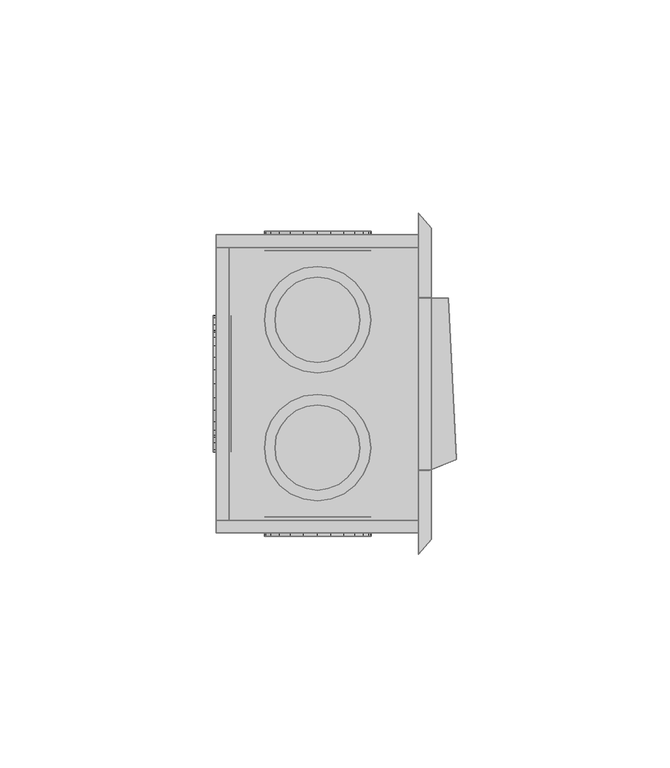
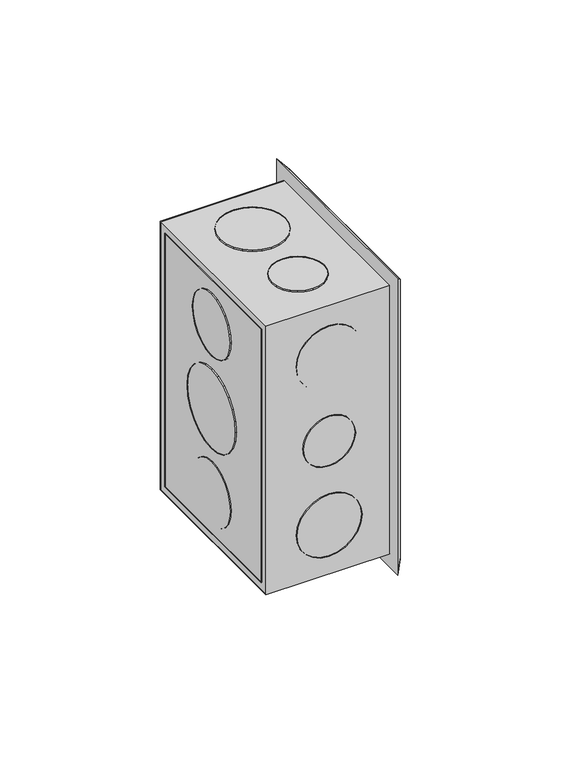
"""IFC4 building model written with IfcOpenShell, lengths in millimetres: proxy geometry,  210619 :  210619."""

from ifc_helpers import new_model, si_unit, origin, place, context, project, spatial, triangles, source, transform, mapped, element, save


def generic_models_47a687d9(model_context):
    return source(origin(), model_context, "Body", "Tessellation", [
        triangles([(2823.4000465, 27363.1995483, 1254.3000378), (2823.4000465, 27360.1997314, 1148.7000154), (2823.4000465, 27363.1995483, 1145.6999805), (2823.4000465, 27360.1997314, 1251.2999302), (2823.4000465, 27293.1991699, 1254.3000378), (2823.4000465, 27296.1989868, 1251.2999302), (2823.4000465, 27293.1991699, 1145.6999805), (2823.4000465, 27296.1989868, 1148.7000154), (2775.9000389, 27360.1997314, 1251.2999302), (2775.9000389, 27360.1997314, 1148.7000154), (2775.9000389, 27293.1991699, 1254.3000378), (2775.9000389, 27293.1991699, 1145.6999805), (2775.9000389, 27296.1989868, 1251.2999302), (2775.9000389, 27363.1995483, 1145.6999805), (2775.9000389, 27296.1989868, 1148.7000154), (2775.9000389, 27363.1995483, 1254.3000378), (2778.8998558, 27360.1997314, 1251.2999302), (2778.8998558, 27296.1989868, 1148.7000154), (2778.8998558, 27360.1997314, 1148.7000154), (2778.8998558, 27296.1989868, 1251.2999302), (2779.400116, 27342.1008362, 1191.9999887), (2779.400116, 27336.1988708, 1186.0999855), (2779.400116, 27339.5009949, 1188.6999722), (2779.400116, 27343.7007385, 1195.8999687), (2779.400116, 27332.3991028, 1184.5000105), (2779.400116, 27344.200708, 1200.0000092), (2779.400116, 27328.1993591, 1183.9999683), (2779.400116, 27343.7007385, 1204.0999769), (2779.400116, 27324.0996094, 1184.5000105), (2779.400116, 27342.1008362, 1208.0000296), (2779.400116, 27320.1998474, 1186.0999855), (2779.400116, 27339.5009949, 1211.2999735), (2779.400116, 27316.9000488, 1188.6999722), (2779.400116, 27336.1988708, 1213.9000328), (2779.400116, 27314.4002014, 1191.9999887), (2779.400116, 27332.3991028, 1215.5000078), (2779.400116, 27312.8002991, 1195.8999687), (2779.400116, 27328.1993591, 1215.9999773), (2779.400116, 27312.2003357, 1200.0000092), (2779.400116, 27324.0996094, 1215.5000078), (2779.400116, 27312.8002991, 1204.0999769), (2779.400116, 27320.1998474, 1213.9000328), (2779.400116, 27314.4002014, 1208.0000296), (2779.400116, 27316.9000488, 1211.2999735), (2775.2000816, 27324.0996094, 1184.5000105), (2775.2000816, 27328.1993591, 1183.9999683), (2775.2000816, 27332.3991028, 1184.5000105), (2775.2000816, 27336.1988708, 1186.0999855), (2775.2000816, 27339.5009949, 1188.6999722), (2775.2000816, 27342.1008362, 1191.9999887), (2775.2000816, 27343.7007385, 1195.8999687), (2775.2000816, 27344.200708, 1200.0000092), (2775.2000816, 27343.7007385, 1204.0999769), (2775.2000816, 27342.1008362, 1208.0000296), (2775.2000816, 27339.5009949, 1211.2999735), (2775.2000816, 27336.1988708, 1213.9000328), (2775.2000816, 27332.3991028, 1215.5000078), (2775.2000816, 27328.1993591, 1215.9999773), (2775.2000816, 27324.0996094, 1215.5000078), (2775.2000816, 27320.1998474, 1213.9000328), (2775.2000816, 27316.9000488, 1211.2999735), (2775.2000816, 27314.4002014, 1208.0000296), (2775.2000816, 27312.8002991, 1204.0999769), (2775.2000816, 27312.2003357, 1200.0000092), (2775.2000816, 27312.8002991, 1195.8999687), (2775.2000816, 27314.4002014, 1191.9999887), (2775.2000816, 27316.9000488, 1188.6999722), (2775.2000816, 27320.1998474, 1186.0999855), (2779.400116, 27339.1010193, 1227.8000565), (2779.400116, 27334.4989746, 1223.2000465), (2779.400116, 27337.1011414, 1225.2000698), (2779.400116, 27340.300946, 1230.8000187), (2779.400116, 27331.4991577, 1221.8999805), (2779.400116, 27340.7009216, 1233.9999687), (2779.400116, 27328.1993591, 1221.500005), (2779.400116, 27340.300946, 1237.2000641), (2779.400116, 27324.9995544, 1221.8999805), (2779.400116, 27339.1010193, 1240.3000202), (2779.400116, 27321.9997375, 1223.2000465), (2779.400116, 27337.1011414, 1242.800013), (2779.400116, 27319.3998962, 1225.2000698), (2779.400116, 27317.4000183, 1227.8000565), (2779.400116, 27334.4989746, 1244.8000362), (2779.400116, 27331.4991577, 1246.0999569), (2779.400116, 27316.2000916, 1230.8000187), (2779.400116, 27328.1993591, 1246.4999325), (2779.400116, 27315.7001221, 1233.9999687), (2779.400116, 27324.9995544, 1246.0999569), (2779.400116, 27316.2000916, 1237.2000641), (2779.400116, 27317.4000183, 1240.3000202), (2779.400116, 27321.9997375, 1244.8000362), (2779.400116, 27319.3998962, 1242.800013), (2775.2000816, 27316.2000916, 1230.8000187), (2775.2000816, 27317.4000183, 1227.8000565), (2775.2000816, 27319.3998962, 1225.2000698), (2775.2000816, 27321.9997375, 1223.2000465), (2775.2000816, 27324.9995544, 1221.8999805), (2775.2000816, 27328.1993591, 1221.500005), (2775.2000816, 27331.4991577, 1221.8999805), (2775.2000816, 27334.4989746, 1223.2000465), (2775.2000816, 27337.1011414, 1225.2000698), (2775.2000816, 27339.1010193, 1227.8000565), (2775.2000816, 27340.300946, 1230.8000187), (2775.2000816, 27340.7009216, 1233.9999687), (2775.2000816, 27340.300946, 1237.2000641), (2775.2000816, 27339.1010193, 1240.3000202), (2775.2000816, 27337.1011414, 1242.800013), (2775.2000816, 27334.4989746, 1244.8000362), (2775.2000816, 27331.4991577, 1246.0999569), (2775.2000816, 27328.1993591, 1246.4999325), (2775.2000816, 27324.9995544, 1246.0999569), (2775.2000816, 27321.9997375, 1244.8000362), (2775.2000816, 27319.3998962, 1242.800013), (2775.2000816, 27317.4000183, 1240.3000202), (2775.2000816, 27316.2000916, 1237.2000641), (2775.2000816, 27315.7001221, 1233.9999687), (2775.2000816, 27334.4989746, 1155.1999821), (2775.2000816, 27339.1010193, 1159.6999981), (2775.2000816, 27337.1011414, 1157.2000053), (2775.2000816, 27331.4991577, 1153.8999887), (2775.2000816, 27340.300946, 1162.8000269), (2775.2000816, 27328.1993591, 1153.5000132), (2775.2000816, 27340.7009216, 1165.9999769), (2775.2000816, 27324.9995544, 1153.8999887), (2775.2000816, 27340.300946, 1169.1999996), (2775.2000816, 27321.9997375, 1155.1999821), (2775.2000816, 27339.1010193, 1172.2000345), (2775.2000816, 27319.3998962, 1157.2000053), (2775.2000816, 27337.1011414, 1174.8000212), (2775.2000816, 27317.4000183, 1159.6999981), (2775.2000816, 27334.4989746, 1176.7999718), (2775.2000816, 27316.2000916, 1162.8000269), (2775.2000816, 27331.4991577, 1178.0999651), (2775.2000816, 27328.1993591, 1178.5000134), (2775.2000816, 27315.7001221, 1165.9999769), (2775.2000816, 27316.2000916, 1169.1999996), (2775.2000816, 27324.9995544, 1178.0999651), (2775.2000816, 27317.4000183, 1172.2000345), (2775.2000816, 27321.9997375, 1176.7999718), (2775.2000816, 27319.3998962, 1174.8000212), (2779.400116, 27331.4991577, 1178.0999651), (2779.400116, 27328.1993591, 1178.5000134), (2779.400116, 27334.4989746, 1176.7999718), (2779.400116, 27337.1011414, 1174.8000212), (2779.400116, 27339.1010193, 1172.2000345), (2779.400116, 27340.300946, 1169.1999996), (2779.400116, 27340.7009216, 1165.9999769), (2779.400116, 27340.300946, 1162.8000269), (2779.400116, 27339.1010193, 1159.6999981), (2779.400116, 27337.1011414, 1157.2000053), (2779.400116, 27334.4989746, 1155.1999821), (2779.400116, 27331.4991577, 1153.8999887), (2779.400116, 27328.1993591, 1153.5000132), (2779.400116, 27324.9995544, 1153.8999887), (2779.400116, 27321.9997375, 1155.1999821), (2779.400116, 27319.3998962, 1157.2000053), (2779.400116, 27317.4000183, 1159.6999981), (2779.400116, 27316.2000916, 1162.8000269), (2779.400116, 27315.7001221, 1165.9999769), (2779.400116, 27316.2000916, 1169.1999996), (2779.400116, 27317.4000183, 1172.2000345), (2779.400116, 27319.3998962, 1174.8000212), (2779.400116, 27321.9997375, 1176.7999718), (2779.400116, 27324.9995544, 1178.0999651), (2794.7000542, 27359.3997803, 1191.3000315), (2790.9999893, 27359.3997803, 1195.0000237), (2792.5998917, 27359.3997803, 1192.9000065), (2790.0000504, 27359.3997803, 1197.4000225), (2797.0999077, 27359.3997803, 1190.3000198), (2789.7000687, 27359.3997803, 1200.0000092), (2799.7000397, 27359.3997803, 1189.9999655), (2802.1998871, 27359.3997803, 1190.3000198), (2790.0000504, 27359.3997803, 1202.5999958), (2790.9999893, 27359.3997803, 1204.9999947), (2804.7000252, 27359.3997803, 1191.3000315), (2792.5998917, 27359.3997803, 1207.1000118), (2806.6999031, 27359.3997803, 1192.9000065), (2808.3000961, 27359.3997803, 1195.0000237), (2794.7000542, 27359.3997803, 1208.6999868), (2809.3000351, 27359.3997803, 1197.4000225), (2797.0999077, 27359.3997803, 1209.6999985), (2809.7000107, 27359.3997803, 1200.0000092), (2799.7000397, 27359.3997803, 1209.9999802), (2809.3000351, 27359.3997803, 1202.5999958), (2802.1998871, 27359.3997803, 1209.6999985), (2804.7000252, 27359.3997803, 1208.6999868), (2808.3000961, 27359.3997803, 1204.9999947), (2806.6999031, 27359.3997803, 1207.1000118), (2799.7000397, 27363.9994995, 1189.9999655), (2797.0999077, 27363.9994995, 1190.3000198), (2802.1998871, 27363.9994995, 1190.3000198), (2804.7000252, 27363.9994995, 1191.3000315), (2806.6999031, 27363.9994995, 1192.9000065), (2808.3000961, 27363.9994995, 1195.0000237), (2809.3000351, 27363.9994995, 1197.4000225), (2809.7000107, 27363.9994995, 1200.0000092), (2809.3000351, 27363.9994995, 1202.5999958), (2808.3000961, 27363.9994995, 1204.9999947), (2806.6999031, 27363.9994995, 1207.1000118), (2804.7000252, 27363.9994995, 1208.6999868), (2802.1998871, 27363.9994995, 1209.6999985), (2799.7000397, 27363.9994995, 1209.9999802), (2797.0999077, 27363.9994995, 1209.6999985), (2794.7000542, 27363.9994995, 1208.6999868), (2792.5998917, 27363.9994995, 1207.1000118), (2790.9999893, 27363.9994995, 1204.9999947), (2790.0000504, 27363.9994995, 1202.5999958), (2789.7000687, 27363.9994995, 1200.0000092), (2790.0000504, 27363.9994995, 1197.4000225), (2790.9999893, 27363.9994995, 1195.0000237), (2792.5998917, 27363.9994995, 1192.9000065), (2794.7000542, 27363.9994995, 1191.3000315), (2793.4001335, 27359.3997803, 1223.2000465), (2788.8001236, 27359.3997803, 1227.8000565), (2790.8000015, 27359.3997803, 1225.2000698), (2796.3999504, 27359.3997803, 1221.8999805), (2787.5999062, 27359.3997803, 1230.8000187), (2787.1999306, 27359.3997803, 1233.9999687), (2799.7000397, 27359.3997803, 1221.500005), (2802.900135, 27359.3997803, 1221.8999805), (2787.5999062, 27359.3997803, 1237.2000641), (2788.8001236, 27359.3997803, 1240.3000202), (2805.8999519, 27359.3997803, 1223.2000465), (2808.5000839, 27359.3997803, 1225.2000698), (2790.8000015, 27359.3997803, 1242.800013), (2810.4999619, 27359.3997803, 1227.8000565), (2793.4001335, 27359.3997803, 1244.8000362), (2811.6998886, 27359.3997803, 1230.8000187), (2796.3999504, 27359.3997803, 1246.0999569), (2812.1998581, 27359.3997803, 1233.9999687), (2799.7000397, 27359.3997803, 1246.4999325), (2811.6998886, 27359.3997803, 1237.2000641), (2802.900135, 27359.3997803, 1246.0999569), (2810.4999619, 27359.3997803, 1240.3000202), (2805.8999519, 27359.3997803, 1244.8000362), (2808.5000839, 27359.3997803, 1242.800013), (2799.7000397, 27363.9994995, 1221.500005), (2796.3999504, 27363.9994995, 1221.8999805), (2802.900135, 27363.9994995, 1221.8999805), (2805.8999519, 27363.9994995, 1223.2000465), (2808.5000839, 27363.9994995, 1225.2000698), (2810.4999619, 27363.9994995, 1227.8000565), (2811.6998886, 27363.9994995, 1230.8000187), (2812.1998581, 27363.9994995, 1233.9999687), (2811.6998886, 27363.9994995, 1237.2000641), (2810.4999619, 27363.9994995, 1240.3000202), (2808.5000839, 27363.9994995, 1242.800013), (2805.8999519, 27363.9994995, 1244.8000362), (2802.900135, 27363.9994995, 1246.0999569), (2799.7000397, 27363.9994995, 1246.4999325), (2796.3999504, 27363.9994995, 1246.0999569), (2793.4001335, 27363.9994995, 1244.8000362), (2790.8000015, 27363.9994995, 1242.800013), (2788.8001236, 27363.9994995, 1240.3000202), (2787.5999062, 27363.9994995, 1237.2000641), (2787.1999306, 27363.9994995, 1233.9999687), (2787.5999062, 27363.9994995, 1230.8000187), (2788.8001236, 27363.9994995, 1227.8000565), (2790.8000015, 27363.9994995, 1225.2000698), (2793.4001335, 27363.9994995, 1223.2000465), (2788.8001236, 27363.9994995, 1159.6999981), (2793.4001335, 27363.9994995, 1155.1999821), (2790.8000015, 27363.9994995, 1157.2000053), (2787.5999062, 27363.9994995, 1162.8000269), (2796.3999504, 27363.9994995, 1153.8999887), (2787.1999306, 27363.9994995, 1165.9999769), (2799.7000397, 27363.9994995, 1153.5000132), (2787.5999062, 27363.9994995, 1169.1999996), (2802.900135, 27363.9994995, 1153.8999887), (2788.8001236, 27363.9994995, 1172.2000345), (2805.8999519, 27363.9994995, 1155.1999821), (2790.8000015, 27363.9994995, 1174.8000212), (2808.5000839, 27363.9994995, 1157.2000053), (2793.4001335, 27363.9994995, 1176.7999718), (2810.4999619, 27363.9994995, 1159.6999981), (2796.3999504, 27363.9994995, 1178.0999651), (2811.6998886, 27363.9994995, 1162.8000269), (2799.7000397, 27363.9994995, 1178.5000134), (2812.1998581, 27363.9994995, 1165.9999769), (2802.900135, 27363.9994995, 1178.0999651), (2811.6998886, 27363.9994995, 1169.1999996), (2805.8999519, 27363.9994995, 1176.7999718), (2810.4999619, 27363.9994995, 1172.2000345), (2808.5000839, 27363.9994995, 1174.8000212), (2796.3999504, 27359.3997803, 1178.0999651), (2799.7000397, 27359.3997803, 1178.5000134), (2802.900135, 27359.3997803, 1178.0999651), (2805.8999519, 27359.3997803, 1176.7999718), (2808.5000839, 27359.3997803, 1174.8000212), (2810.4999619, 27359.3997803, 1172.2000345), (2811.6998886, 27359.3997803, 1169.1999996), (2812.1998581, 27359.3997803, 1165.9999769), (2811.6998886, 27359.3997803, 1162.8000269), (2810.4999619, 27359.3997803, 1159.6999981), (2808.5000839, 27359.3997803, 1157.2000053), (2805.8999519, 27359.3997803, 1155.1999821), (2802.900135, 27359.3997803, 1153.8999887), (2799.7000397, 27359.3997803, 1153.5000132), (2796.3999504, 27359.3997803, 1153.8999887), (2793.4001335, 27359.3997803, 1155.1999821), (2790.8000015, 27359.3997803, 1157.2000053), (2788.8001236, 27359.3997803, 1159.6999981), (2787.5999062, 27359.3997803, 1162.8000269), (2787.1999306, 27359.3997803, 1165.9999769), (2787.5999062, 27359.3997803, 1169.1999996), (2788.8001236, 27359.3997803, 1172.2000345), (2790.8000015, 27359.3997803, 1174.8000212), (2793.4001335, 27359.3997803, 1176.7999718), (2790.9999893, 27296.998938, 1195.0000237), (2794.7000542, 27296.998938, 1191.3000315), (2792.5998917, 27296.998938, 1192.9000065), (2790.0000504, 27296.998938, 1197.4000225), (2797.0999077, 27296.998938, 1190.3000198), (2789.7000687, 27296.998938, 1200.0000092), (2799.7000397, 27296.998938, 1189.9999655), (2790.0000504, 27296.998938, 1202.5999958), (2802.1998871, 27296.998938, 1190.3000198), (2790.9999893, 27296.998938, 1204.9999947), (2804.7000252, 27296.998938, 1191.3000315), (2792.5998917, 27296.998938, 1207.1000118), (2806.6999031, 27296.998938, 1192.9000065), (2794.7000542, 27296.998938, 1208.6999868), (2808.3000961, 27296.998938, 1195.0000237), (2797.0999077, 27296.998938, 1209.6999985), (2809.3000351, 27296.998938, 1197.4000225), (2809.7000107, 27296.998938, 1200.0000092), (2799.7000397, 27296.998938, 1209.9999802), (2802.1998871, 27296.998938, 1209.6999985), (2809.3000351, 27296.998938, 1202.5999958), (2804.7000252, 27296.998938, 1208.6999868), (2808.3000961, 27296.998938, 1204.9999947), (2806.6999031, 27296.998938, 1207.1000118), (2797.0999077, 27292.3992188, 1209.6999985), (2799.7000397, 27292.3992188, 1209.9999802), (2802.1998871, 27292.3992188, 1209.6999985), (2804.7000252, 27292.3992188, 1208.6999868), (2806.6999031, 27292.3992188, 1207.1000118), (2808.3000961, 27292.3992188, 1204.9999947), (2809.3000351, 27292.3992188, 1202.5999958), (2809.7000107, 27292.3992188, 1200.0000092), (2809.3000351, 27292.3992188, 1197.4000225), (2808.3000961, 27292.3992188, 1195.0000237), (2806.6999031, 27292.3992188, 1192.9000065), (2804.7000252, 27292.3992188, 1191.3000315), (2802.1998871, 27292.3992188, 1190.3000198), (2799.7000397, 27292.3992188, 1189.9999655), (2797.0999077, 27292.3992188, 1190.3000198), (2794.7000542, 27292.3992188, 1191.3000315), (2792.5998917, 27292.3992188, 1192.9000065), (2790.9999893, 27292.3992188, 1195.0000237), (2790.0000504, 27292.3992188, 1197.4000225), (2789.7000687, 27292.3992188, 1200.0000092), (2790.0000504, 27292.3992188, 1202.5999958), (2790.9999893, 27292.3992188, 1204.9999947), (2792.5998917, 27292.3992188, 1207.1000118), (2794.7000542, 27292.3992188, 1208.6999868), (2788.8001236, 27296.998938, 1159.6999981), (2793.4001335, 27296.998938, 1155.1999821), (2790.8000015, 27296.998938, 1157.2000053), (2787.5999062, 27296.998938, 1162.8000269), (2796.3999504, 27296.998938, 1153.8999887), (2787.1999306, 27296.998938, 1165.9999769), (2799.7000397, 27296.998938, 1153.5000132), (2787.5999062, 27296.998938, 1169.1999996), (2802.900135, 27296.998938, 1153.8999887), (2788.8001236, 27296.998938, 1172.2000345), (2805.8999519, 27296.998938, 1155.1999821), (2790.8000015, 27296.998938, 1174.8000212), (2808.5000839, 27296.998938, 1157.2000053), (2793.4001335, 27296.998938, 1176.7999718), (2810.4999619, 27296.998938, 1159.6999981), (2796.3999504, 27296.998938, 1178.0999651), (2811.6998886, 27296.998938, 1162.8000269), (2799.7000397, 27296.998938, 1178.5000134), (2812.1998581, 27296.998938, 1165.9999769), (2802.900135, 27296.998938, 1178.0999651), (2811.6998886, 27296.998938, 1169.1999996), (2805.8999519, 27296.998938, 1176.7999718), (2810.4999619, 27296.998938, 1172.2000345), (2808.5000839, 27296.998938, 1174.8000212), (2796.3999504, 27292.3992188, 1178.0999651), (2799.7000397, 27292.3992188, 1178.5000134), (2802.900135, 27292.3992188, 1178.0999651), (2805.8999519, 27292.3992188, 1176.7999718), (2808.5000839, 27292.3992188, 1174.8000212), (2810.4999619, 27292.3992188, 1172.2000345), (2811.6998886, 27292.3992188, 1169.1999996), (2812.1998581, 27292.3992188, 1165.9999769), (2811.6998886, 27292.3992188, 1162.8000269), (2810.4999619, 27292.3992188, 1159.6999981), (2808.5000839, 27292.3992188, 1157.2000053), (2805.8999519, 27292.3992188, 1155.1999821), (2802.900135, 27292.3992188, 1153.8999887), (2799.7000397, 27292.3992188, 1153.5000132), (2796.3999504, 27292.3992188, 1153.8999887), (2793.4001335, 27292.3992188, 1155.1999821), (2790.8000015, 27292.3992188, 1157.2000053), (2788.8001236, 27292.3992188, 1159.6999981), (2787.5999062, 27292.3992188, 1162.8000269), (2787.1999306, 27292.3992188, 1165.9999769), (2787.5999062, 27292.3992188, 1169.1999996), (2788.8001236, 27292.3992188, 1172.2000345), (2790.8000015, 27292.3992188, 1174.8000212), (2793.4001335, 27292.3992188, 1176.7999718), (2793.4001335, 27292.3992188, 1223.2000465), (2788.8001236, 27292.3992188, 1227.8000565), (2790.8000015, 27292.3992188, 1225.2000698), (2796.3999504, 27292.3992188, 1221.8999805), (2787.5999062, 27292.3992188, 1230.8000187), (2787.1999306, 27292.3992188, 1233.9999687), (2799.7000397, 27292.3992188, 1221.500005), (2802.900135, 27292.3992188, 1221.8999805), (2787.5999062, 27292.3992188, 1237.2000641), (2788.8001236, 27292.3992188, 1240.3000202), (2805.8999519, 27292.3992188, 1223.2000465), (2808.5000839, 27292.3992188, 1225.2000698), (2790.8000015, 27292.3992188, 1242.800013), (2810.4999619, 27292.3992188, 1227.8000565), (2793.4001335, 27292.3992188, 1244.8000362), (2811.6998886, 27292.3992188, 1230.8000187), (2796.3999504, 27292.3992188, 1246.0999569), (2812.1998581, 27292.3992188, 1233.9999687), (2799.7000397, 27292.3992188, 1246.4999325), (2811.6998886, 27292.3992188, 1237.2000641), (2802.900135, 27292.3992188, 1246.0999569), (2810.4999619, 27292.3992188, 1240.3000202), (2805.8999519, 27292.3992188, 1244.8000362), (2808.5000839, 27292.3992188, 1242.800013), (2799.7000397, 27296.998938, 1221.500005), (2796.3999504, 27296.998938, 1221.8999805), (2802.900135, 27296.998938, 1221.8999805), (2805.8999519, 27296.998938, 1223.2000465), (2808.5000839, 27296.998938, 1225.2000698), (2810.4999619, 27296.998938, 1227.8000565), (2811.6998886, 27296.998938, 1230.8000187), (2812.1998581, 27296.998938, 1233.9999687), (2811.6998886, 27296.998938, 1237.2000641), (2810.4999619, 27296.998938, 1240.3000202), (2808.5000839, 27296.998938, 1242.800013), (2805.8999519, 27296.998938, 1244.8000362), (2802.900135, 27296.998938, 1246.0999569), (2799.7000397, 27296.998938, 1246.4999325), (2796.3999504, 27296.998938, 1246.0999569), (2793.4001335, 27296.998938, 1244.8000362), (2790.8000015, 27296.998938, 1242.800013), (2788.8001236, 27296.998938, 1240.3000202), (2787.5999062, 27296.998938, 1237.2000641), (2787.1999306, 27296.998938, 1233.9999687), (2787.5999062, 27296.998938, 1230.8000187), (2788.8001236, 27296.998938, 1227.8000565), (2790.8000015, 27296.998938, 1225.2000698), (2793.4001335, 27296.998938, 1223.2000465), (2793.4001335, 27354.1001038, 1250.9999485), (2788.8001236, 27349.5003845, 1250.9999485), (2790.8000015, 27352.1002258, 1250.9999485), (2796.3999504, 27355.3000305, 1250.9999485), (2787.5999062, 27346.5005676, 1250.9999485), (2787.1999306, 27343.200769, 1250.9999485), (2799.7000397, 27355.7000061, 1250.9999485), (2802.900135, 27355.3000305, 1250.9999485), (2787.5999062, 27340.0009644, 1250.9999485), (2788.8001236, 27337.0011475, 1250.9999485), (2805.8999519, 27354.1001038, 1250.9999485), (2808.5000839, 27352.1002258, 1250.9999485), (2790.8000015, 27334.3989807, 1250.9999485), (2793.4001335, 27332.3991028, 1250.9999485), (2810.4999619, 27349.5003845, 1250.9999485), (2811.6998886, 27346.5005676, 1250.9999485), (2796.3999504, 27331.199176, 1250.9999485), (2812.1998581, 27343.200769, 1250.9999485), (2799.7000397, 27330.6992065, 1250.9999485), (2811.6998886, 27340.0009644, 1250.9999485), (2802.900135, 27331.199176, 1250.9999485), (2805.8999519, 27332.3991028, 1250.9999485), (2810.4999619, 27337.0011475, 1250.9999485), (2808.5000839, 27334.3989807, 1250.9999485), (2787.1999306, 27343.200769, 1255.1999828), (2787.5999062, 27340.0009644, 1255.1999828), (2787.5999062, 27346.5005676, 1255.1999828), (2788.8001236, 27349.5003845, 1255.1999828), (2790.8000015, 27352.1002258, 1255.1999828), (2793.4001335, 27354.1001038, 1255.1999828), (2796.3999504, 27355.3000305, 1255.1999828), (2799.7000397, 27355.7000061, 1255.1999828), (2802.900135, 27355.3000305, 1255.1999828), (2805.8999519, 27354.1001038, 1255.1999828), (2808.5000839, 27352.1002258, 1255.1999828), (2810.4999619, 27349.5003845, 1255.1999828), (2811.6998886, 27346.5005676, 1255.1999828), (2812.1998581, 27343.200769, 1255.1999828), (2811.6998886, 27340.0009644, 1255.1999828), (2810.4999619, 27337.0011475, 1255.1999828), (2808.5000839, 27334.3989807, 1255.1999828), (2805.8999519, 27332.3991028, 1255.1999828), (2802.900135, 27331.199176, 1255.1999828), (2799.7000397, 27330.6992065, 1255.1999828), (2796.3999504, 27331.199176, 1255.1999828), (2793.4001335, 27332.3991028, 1255.1999828), (2790.8000015, 27334.3989807, 1255.1999828), (2788.8001236, 27337.0011475, 1255.1999828), (2794.7000542, 27321.8997437, 1250.9999485), (2790.9999893, 27318.1999695, 1250.9999485), (2792.5998917, 27320.2998413, 1250.9999485), (2790.0000504, 27315.800116, 1250.9999485), (2797.0999077, 27322.8996826, 1250.9999485), (2789.7000687, 27313.2002747, 1250.9999485), (2799.7000397, 27323.1996643, 1250.9999485), (2802.1998871, 27322.8996826, 1250.9999485), (2790.0000504, 27310.6004333, 1250.9999485), (2790.9999893, 27308.2005798, 1250.9999485), (2804.7000252, 27321.8997437, 1250.9999485), (2792.5998917, 27306.2007019, 1250.9999485), (2806.6999031, 27320.2998413, 1250.9999485), (2808.3000961, 27318.1999695, 1250.9999485), (2794.7000542, 27304.6007996, 1250.9999485), (2797.0999077, 27303.6008606, 1250.9999485), (2809.3000351, 27315.800116, 1250.9999485), (2809.7000107, 27313.2002747, 1250.9999485), (2799.7000397, 27303.200885, 1250.9999485), (2809.3000351, 27310.6004333, 1250.9999485), (2802.1998871, 27303.6008606, 1250.9999485), (2808.3000961, 27308.2005798, 1250.9999485), (2804.7000252, 27304.6007996, 1250.9999485), (2806.6999031, 27306.2007019, 1250.9999485), (2790.0000504, 27310.6004333, 1255.1999828), (2790.9999893, 27308.2005798, 1255.1999828), (2789.7000687, 27313.2002747, 1255.1999828), (2790.0000504, 27315.800116, 1255.1999828), (2790.9999893, 27318.1999695, 1255.1999828), (2792.5998917, 27320.2998413, 1255.1999828), (2794.7000542, 27321.8997437, 1255.1999828), (2797.0999077, 27322.8996826, 1255.1999828), (2799.7000397, 27323.1996643, 1255.1999828), (2802.1998871, 27322.8996826, 1255.1999828), (2804.7000252, 27321.8997437, 1255.1999828), (2806.6999031, 27320.2998413, 1255.1999828), (2808.3000961, 27318.1999695, 1255.1999828), (2809.3000351, 27315.800116, 1255.1999828), (2809.7000107, 27313.2002747, 1255.1999828), (2809.3000351, 27310.6004333, 1255.1999828), (2808.3000961, 27308.2005798, 1255.1999828), (2806.6999031, 27306.2007019, 1255.1999828), (2804.7000252, 27304.6007996, 1255.1999828), (2802.1998871, 27303.6008606, 1255.1999828), (2799.7000397, 27303.200885, 1255.1999828), (2797.0999077, 27303.6008606, 1255.1999828), (2794.7000542, 27304.6007996, 1255.1999828), (2792.5998917, 27306.2007019, 1255.1999828), (2794.7000542, 27351.900238, 1144.8000355), (2790.9999893, 27348.2004639, 1144.8000355), (2792.5998917, 27350.3003357, 1144.8000355), (2790.0000504, 27345.8006104, 1144.8000355), (2797.0999077, 27352.900177, 1144.8000355), (2789.7000687, 27343.200769, 1144.8000355), (2799.7000397, 27353.2001587, 1144.8000355), (2802.1998871, 27352.900177, 1144.8000355), (2790.0000504, 27340.6009277, 1144.8000355), (2790.9999893, 27338.2010742, 1144.8000355), (2804.7000252, 27351.900238, 1144.8000355), (2792.5998917, 27336.1988708, 1144.8000355), (2806.6999031, 27350.3003357, 1144.8000355), (2808.3000961, 27348.2004639, 1144.8000355), (2794.7000542, 27334.5989685, 1144.8000355), (2797.0999077, 27333.5990295, 1144.8000355), (2809.3000351, 27345.8006104, 1144.8000355), (2809.7000107, 27343.200769, 1144.8000355), (2799.7000397, 27333.199054, 1144.8000355), (2809.3000351, 27340.6009277, 1144.8000355), (2802.1998871, 27333.5990295, 1144.8000355), (2808.3000961, 27338.2010742, 1144.8000355), (2804.7000252, 27334.5989685, 1144.8000355), (2806.6999031, 27336.1988708, 1144.8000355), (2790.0000504, 27345.8006104, 1149.099991), (2789.7000687, 27343.200769, 1149.099991), (2790.9999893, 27348.2004639, 1149.099991), (2792.5998917, 27350.3003357, 1149.099991), (2794.7000542, 27351.900238, 1149.099991), (2797.0999077, 27352.900177, 1149.099991), (2799.7000397, 27353.2001587, 1149.099991), (2802.1998871, 27352.900177, 1149.099991), (2804.7000252, 27351.900238, 1149.099991), (2806.6999031, 27350.3003357, 1149.099991), (2808.3000961, 27348.2004639, 1149.099991), (2809.3000351, 27345.8006104, 1149.099991), (2809.7000107, 27343.200769, 1149.099991), (2809.3000351, 27340.6009277, 1149.099991), (2808.3000961, 27338.2010742, 1149.099991), (2806.6999031, 27336.1988708, 1149.099991), (2804.7000252, 27334.5989685, 1149.099991), (2802.1998871, 27333.5990295, 1149.099991), (2799.7000397, 27333.199054, 1149.099991), (2797.0999077, 27333.5990295, 1149.099991), (2794.7000542, 27334.5989685, 1149.099991), (2792.5998917, 27336.1988708, 1149.099991), (2790.9999893, 27338.2010742, 1149.099991), (2790.0000504, 27340.6009277, 1149.099991), (2793.4001335, 27324.0996094, 1144.8000355), (2788.8001236, 27319.4998901, 1144.8000355), (2790.8000015, 27322.0997314, 1144.8000355), (2796.3999504, 27325.2995361, 1144.8000355), (2787.5999062, 27316.5000732, 1144.8000355), (2787.1999306, 27313.2002747, 1144.8000355), (2799.7000397, 27325.6995117, 1144.8000355), (2802.900135, 27325.2995361, 1144.8000355), (2787.5999062, 27310.00047, 1144.8000355), (2788.8001236, 27307.0006531, 1144.8000355), (2805.8999519, 27324.0996094, 1144.8000355), (2808.5000839, 27322.0997314, 1144.8000355), (2790.8000015, 27304.4008118, 1144.8000355), (2793.4001335, 27302.4009338, 1144.8000355), (2810.4999619, 27319.4998901, 1144.8000355), (2811.6998886, 27316.5000732, 1144.8000355), (2796.3999504, 27301.2010071, 1144.8000355), (2812.1998581, 27313.2002747, 1144.8000355), (2799.7000397, 27300.7010376, 1144.8000355), (2811.6998886, 27310.00047, 1144.8000355), (2802.900135, 27301.2010071, 1144.8000355), (2805.8999519, 27302.4009338, 1144.8000355), (2810.4999619, 27307.0006531, 1144.8000355), (2808.5000839, 27304.4008118, 1144.8000355), (2787.5999062, 27310.00047, 1149.099991), (2788.8001236, 27307.0006531, 1149.099991), (2787.1999306, 27313.2002747, 1149.099991), (2787.5999062, 27316.5000732, 1149.099991), (2788.8001236, 27319.4998901, 1149.099991), (2790.8000015, 27322.0997314, 1149.099991), (2793.4001335, 27324.0996094, 1149.099991), (2796.3999504, 27325.2995361, 1149.099991), (2799.7000397, 27325.6995117, 1149.099991), (2802.900135, 27325.2995361, 1149.099991), (2805.8999519, 27324.0996094, 1149.099991), (2808.5000839, 27322.0997314, 1149.099991), (2810.4999619, 27319.4998901, 1149.099991), (2811.6998886, 27316.5000732, 1149.099991), (2812.1998581, 27313.2002747, 1149.099991), (2811.6998886, 27310.00047, 1149.099991), (2810.4999619, 27307.0006531, 1149.099991), (2808.5000839, 27304.4008118, 1149.099991), (2805.8999519, 27302.4009338, 1149.099991), (2802.900135, 27301.2010071, 1149.099991), (2799.7000397, 27300.7010376, 1149.099991), (2796.3999504, 27301.2010071, 1149.099991), (2793.4001335, 27302.4009338, 1149.099991), (2790.8000015, 27304.4008118, 1149.099991), (2823.4000465, 27288.1994751, 1139.9999651), (2823.4000465, 27348.4004517, 1188.2999966), (2823.4000465, 27368.1992432, 1139.9999651), (2823.4000465, 27308.000592, 1188.2999966), (2823.4000465, 27288.1994751, 1259.9999805), (2823.4000465, 27308.000592, 1211.7000217), (2823.4000465, 27368.1992432, 1259.9999805), (2823.4000465, 27348.4004517, 1211.7000217), (2826.3998634, 27308.000592, 1188.2999966), (2826.3998634, 27308.000592, 1211.7000217), (2826.3998634, 27348.4004517, 1188.2999966), (2826.3998634, 27348.4004517, 1211.7000217), (2826.3998634, 27364.6994568, 1143.4999695), (2826.3998634, 27364.6994568, 1256.5000488), (2826.3998634, 27291.6992615, 1143.4999695), (2826.3998634, 27291.6992615, 1256.5000488), (2830.39991, 27348.3004578, 1188.1000088), (2823.4000465, 27307.9005981, 1188.1000088), (2823.4000465, 27348.3004578, 1188.1000088), (2832.3000847, 27310.5004395, 1188.1000088), (2825.899894, 27307.9005981, 1188.1000088), (2823.4000465, 27348.3004578, 1211.500034), (2823.4000465, 27307.9005981, 1211.500034), (2830.39991, 27348.3004578, 1211.500034), (2832.3000847, 27310.5004395, 1211.500034), (2825.899894, 27307.9005981, 1211.500034)], [[1, 2, 3], [2, 1, 4], [5, 4, 1], [4, 5, 6], [3, 2, 7], [7, 2, 8], [7, 8, 6], [7, 6, 5], [2, 9, 10], [9, 2, 4], [7, 11, 12], [11, 7, 5], [4, 13, 9], [13, 4, 6], [3, 12, 14], [12, 3, 7], [13, 8, 15], [8, 13, 6], [16, 3, 14], [3, 16, 1], [15, 2, 10], [2, 15, 8], [11, 1, 16], [1, 11, 5], [12, 10, 14], [10, 12, 15], [11, 15, 12], [15, 11, 13], [14, 10, 16], [16, 10, 9], [16, 9, 13], [16, 13, 11], [17, 18, 19], [18, 17, 20], [18, 13, 15], [13, 18, 20], [19, 15, 10], [15, 19, 18], [9, 19, 10], [19, 9, 17], [13, 17, 9], [17, 13, 20], [15, 9, 10], [9, 15, 13], [21, 22, 23], [22, 21, 24], [25, 22, 24], [25, 24, 26], [27, 25, 26], [27, 26, 28], [29, 27, 28], [29, 28, 30], [31, 29, 30], [31, 30, 32], [31, 32, 33], [33, 32, 34], [33, 34, 35], [35, 34, 36], [35, 36, 37], [37, 36, 38], [37, 38, 39], [39, 38, 40], [39, 40, 41], [41, 40, 42], [41, 42, 43], [43, 42, 44], [27, 45, 46], [45, 27, 29], [25, 46, 47], [46, 25, 27], [22, 47, 48], [47, 22, 25], [23, 48, 49], [48, 23, 22], [50, 23, 49], [23, 50, 21], [51, 21, 50], [21, 51, 24], [52, 24, 51], [24, 52, 26], [53, 26, 52], [26, 53, 28], [54, 28, 53], [28, 54, 30], [55, 30, 54], [30, 55, 32], [56, 32, 55], [32, 56, 34], [57, 34, 56], [34, 57, 36], [58, 36, 57], [36, 58, 38], [59, 38, 58], [38, 59, 40], [60, 40, 59], [40, 60, 42], [61, 42, 60], [42, 61, 44], [43, 61, 62], [61, 43, 44], [41, 62, 63], [62, 41, 43], [39, 63, 64], [63, 39, 41], [37, 64, 65], [64, 37, 39], [35, 65, 66], [65, 35, 37], [33, 66, 67], [66, 33, 35], [31, 67, 68], [67, 31, 33], [29, 68, 45], [68, 29, 31], [48, 50, 49], [50, 48, 47], [51, 50, 47], [51, 47, 46], [52, 51, 46], [52, 46, 45], [53, 52, 45], [53, 45, 68], [54, 53, 68], [54, 68, 67], [54, 67, 55], [55, 67, 66], [55, 66, 56], [56, 66, 65], [56, 65, 57], [57, 65, 64], [57, 64, 58], [58, 64, 63], [58, 63, 59], [59, 63, 62], [59, 62, 60], [60, 62, 61], [69, 70, 71], [70, 69, 72], [73, 70, 72], [73, 72, 74], [75, 73, 74], [75, 74, 76], [77, 75, 76], [77, 76, 78], [79, 77, 78], [79, 78, 80], [81, 79, 80], [81, 80, 82], [82, 80, 83], [82, 83, 84], [82, 84, 85], [85, 84, 86], [85, 86, 87], [87, 86, 88], [87, 88, 89], [89, 88, 90], [90, 88, 91], [90, 91, 92], [82, 93, 94], [93, 82, 85], [81, 94, 95], [94, 81, 82], [79, 95, 96], [95, 79, 81], [77, 96, 97], [96, 77, 79], [75, 97, 98], [97, 75, 77], [73, 98, 99], [98, 73, 75], [70, 99, 100], [99, 70, 73], [71, 100, 101], [100, 71, 70], [102, 71, 101], [71, 102, 69], [103, 69, 102], [69, 103, 72], [104, 72, 103], [72, 104, 74], [105, 74, 104], [74, 105, 76], [106, 76, 105], [76, 106, 78], [107, 78, 106], [78, 107, 80], [108, 80, 107], [80, 108, 83], [109, 83, 108], [83, 109, 84], [110, 84, 109], [84, 110, 86], [111, 86, 110], [86, 111, 88], [112, 88, 111], [88, 112, 91], [113, 91, 112], [91, 113, 92], [90, 113, 114], [113, 90, 92], [89, 114, 115], [114, 89, 90], [87, 115, 116], [115, 87, 89], [85, 116, 93], [116, 85, 87], [100, 102, 101], [102, 100, 99], [103, 102, 99], [103, 99, 98], [104, 103, 98], [104, 98, 97], [105, 104, 97], [106, 105, 97], [106, 97, 96], [106, 96, 95], [106, 95, 107], [107, 95, 94], [107, 94, 108], [108, 94, 93], [108, 93, 109], [109, 93, 116], [109, 116, 110], [110, 116, 115], [110, 115, 111], [111, 115, 114], [111, 114, 112], [112, 114, 113], [117, 118, 119], [118, 117, 120], [121, 118, 120], [121, 120, 122], [123, 121, 122], [123, 122, 124], [125, 123, 124], [125, 124, 126], [127, 125, 126], [127, 126, 128], [127, 128, 129], [129, 128, 130], [129, 130, 131], [131, 130, 132], [131, 132, 133], [133, 132, 134], [134, 132, 135], [134, 135, 136], [134, 136, 137], [137, 136, 138], [137, 138, 139], [139, 138, 140], [134, 141, 133], [141, 134, 142], [133, 143, 131], [143, 133, 141], [131, 144, 129], [144, 131, 143], [129, 145, 127], [145, 129, 144], [127, 146, 125], [146, 127, 145], [125, 147, 123], [147, 125, 146], [123, 148, 121], [148, 123, 147], [121, 149, 118], [149, 121, 148], [118, 150, 119], [150, 118, 149], [150, 117, 119], [117, 150, 151], [151, 120, 117], [120, 151, 152], [152, 122, 120], [122, 152, 153], [153, 124, 122], [124, 153, 154], [154, 126, 124], [126, 154, 155], [155, 128, 126], [128, 155, 156], [156, 130, 128], [130, 156, 157], [157, 132, 130], [132, 157, 158], [158, 135, 132], [135, 158, 159], [159, 136, 135], [136, 159, 160], [160, 138, 136], [138, 160, 161], [161, 140, 138], [140, 161, 162], [140, 163, 139], [163, 140, 162], [139, 164, 137], [164, 139, 163], [137, 142, 134], [142, 137, 164], [149, 151, 150], [151, 149, 148], [152, 151, 148], [153, 152, 148], [153, 148, 147], [153, 147, 146], [154, 153, 146], [154, 146, 145], [155, 154, 145], [155, 145, 144], [156, 155, 144], [156, 144, 157], [157, 144, 143], [157, 143, 141], [157, 141, 158], [158, 141, 142], [158, 142, 159], [159, 142, 164], [159, 164, 160], [160, 164, 163], [160, 163, 161], [161, 163, 162], [165, 166, 167], [168, 166, 165], [168, 165, 169], [170, 168, 169], [170, 169, 171], [170, 171, 172], [173, 170, 172], [174, 173, 172], [174, 172, 175], [176, 174, 175], [176, 175, 177], [176, 177, 178], [176, 178, 179], [179, 178, 180], [179, 180, 181], [181, 180, 182], [181, 182, 183], [183, 182, 184], [183, 184, 185], [185, 184, 186], [186, 184, 187], [186, 187, 188], [189, 169, 190], [169, 189, 171], [191, 171, 189], [171, 191, 172], [192, 172, 191], [172, 192, 175], [193, 175, 192], [175, 193, 177], [194, 177, 193], [177, 194, 178], [195, 178, 194], [178, 195, 180], [196, 180, 195], [180, 196, 182], [197, 182, 196], [182, 197, 184], [198, 184, 197], [184, 198, 187], [199, 187, 198], [187, 199, 188], [186, 199, 200], [199, 186, 188], [185, 200, 201], [200, 185, 186], [183, 201, 202], [201, 183, 185], [181, 202, 203], [202, 181, 183], [179, 203, 204], [203, 179, 181], [176, 204, 205], [204, 176, 179], [174, 205, 206], [205, 174, 176], [173, 206, 207], [206, 173, 174], [170, 207, 208], [207, 170, 173], [168, 208, 209], [208, 168, 170], [166, 209, 210], [209, 166, 168], [167, 210, 211], [210, 167, 166], [212, 167, 211], [167, 212, 165], [190, 165, 212], [165, 190, 169], [210, 212, 211], [212, 210, 209], [190, 212, 209], [190, 209, 208], [189, 190, 208], [189, 208, 207], [191, 189, 207], [191, 207, 206], [192, 191, 206], [192, 206, 205], [192, 205, 193], [193, 205, 204], [193, 204, 194], [194, 204, 203], [194, 203, 195], [195, 203, 196], [196, 203, 202], [196, 202, 201], [196, 201, 197], [197, 201, 200], [197, 200, 198], [198, 200, 199], [213, 214, 215], [214, 213, 216], [217, 214, 216], [218, 217, 216], [218, 216, 219], [218, 219, 220], [221, 218, 220], [222, 221, 220], [222, 220, 223], [222, 223, 224], [222, 224, 225], [225, 224, 226], [225, 226, 227], [227, 226, 228], [227, 228, 229], [229, 228, 230], [229, 230, 231], [231, 230, 232], [231, 232, 233], [233, 232, 234], [233, 234, 235], [235, 234, 236], [237, 216, 238], [216, 237, 219], [239, 219, 237], [219, 239, 220], [240, 220, 239], [220, 240, 223], [241, 223, 240], [223, 241, 224], [242, 224, 241], [224, 242, 226], [243, 226, 242], [226, 243, 228], [244, 228, 243], [228, 244, 230], [245, 230, 244], [230, 245, 232], [246, 232, 245], [232, 246, 234], [247, 234, 246], [234, 247, 236], [235, 247, 248], [247, 235, 236], [233, 248, 249], [248, 233, 235], [231, 249, 250], [249, 231, 233], [229, 250, 251], [250, 229, 231], [227, 251, 252], [251, 227, 229], [225, 252, 253], [252, 225, 227], [222, 253, 254], [253, 222, 225], [221, 254, 255], [254, 221, 222], [218, 255, 256], [255, 218, 221], [217, 256, 257], [256, 217, 218], [214, 257, 258], [257, 214, 217], [215, 258, 259], [258, 215, 214], [260, 215, 259], [215, 260, 213], [238, 213, 260], [213, 238, 216], [258, 260, 259], [260, 258, 257], [238, 260, 257], [238, 257, 256], [237, 238, 256], [237, 256, 255], [239, 237, 255], [239, 255, 254], [240, 239, 254], [240, 254, 253], [241, 240, 253], [241, 253, 252], [241, 252, 242], [242, 252, 251], [242, 251, 243], [243, 251, 244], [244, 251, 250], [244, 250, 249], [244, 249, 245], [245, 249, 246], [246, 249, 248], [246, 248, 247], [261, 262, 263], [262, 261, 264], [265, 262, 264], [265, 264, 266], [267, 265, 266], [267, 266, 268], [269, 267, 268], [269, 268, 270], [271, 269, 270], [271, 270, 272], [273, 271, 272], [273, 272, 274], [273, 274, 275], [275, 274, 276], [275, 276, 277], [277, 276, 278], [277, 278, 279], [279, 278, 280], [279, 280, 281], [281, 280, 282], [281, 282, 283], [283, 282, 284], [285, 278, 276], [278, 285, 286], [286, 280, 278], [280, 286, 287], [287, 282, 280], [282, 287, 288], [288, 284, 282], [284, 288, 289], [284, 290, 283], [290, 284, 289], [283, 291, 281], [291, 283, 290], [281, 292, 279], [292, 281, 291], [279, 293, 277], [293, 279, 292], [277, 294, 275], [294, 277, 293], [275, 295, 273], [295, 275, 294], [273, 296, 271], [296, 273, 295], [271, 297, 269], [297, 271, 296], [269, 298, 267], [298, 269, 297], [267, 299, 265], [299, 267, 298], [265, 300, 262], [300, 265, 299], [262, 301, 263], [301, 262, 300], [301, 261, 263], [261, 301, 302], [302, 264, 261], [264, 302, 303], [303, 266, 264], [266, 303, 304], [304, 268, 266], [268, 304, 305], [305, 270, 268], [270, 305, 306], [306, 272, 270], [272, 306, 307], [307, 274, 272], [274, 307, 308], [308, 276, 274], [276, 308, 285], [300, 302, 301], [302, 300, 299], [303, 302, 299], [303, 299, 298], [304, 303, 298], [304, 298, 297], [305, 304, 297], [305, 297, 296], [306, 305, 296], [306, 296, 295], [306, 295, 307], [307, 295, 294], [307, 294, 308], [308, 294, 293], [308, 293, 285], [285, 293, 286], [286, 293, 292], [286, 292, 291], [286, 291, 287], [287, 291, 288], [288, 291, 290], [288, 290, 289], [309, 310, 311], [310, 309, 312], [313, 310, 312], [313, 312, 314], [315, 313, 314], [315, 314, 316], [317, 315, 316], [317, 316, 318], [319, 317, 318], [319, 318, 320], [319, 320, 321], [321, 320, 322], [321, 322, 323], [323, 322, 324], [323, 324, 325], [325, 324, 326], [326, 324, 327], [326, 327, 328], [326, 328, 329], [329, 328, 330], [329, 330, 331], [331, 330, 332], [333, 327, 324], [327, 333, 334], [334, 328, 327], [328, 334, 335], [335, 330, 328], [330, 335, 336], [336, 332, 330], [332, 336, 337], [332, 338, 331], [338, 332, 337], [331, 339, 329], [339, 331, 338], [329, 340, 326], [340, 329, 339], [326, 341, 325], [341, 326, 340], [325, 342, 323], [342, 325, 341], [323, 343, 321], [343, 323, 342], [321, 344, 319], [344, 321, 343], [319, 345, 317], [345, 319, 344], [317, 346, 315], [346, 317, 345], [315, 347, 313], [347, 315, 346], [313, 348, 310], [348, 313, 347], [310, 349, 311], [349, 310, 348], [349, 309, 311], [309, 349, 350], [350, 312, 309], [312, 350, 351], [351, 314, 312], [314, 351, 352], [352, 316, 314], [316, 352, 353], [353, 318, 316], [318, 353, 354], [354, 320, 318], [320, 354, 355], [355, 322, 320], [322, 355, 356], [356, 324, 322], [324, 356, 333], [348, 350, 349], [351, 350, 348], [351, 348, 347], [352, 351, 347], [352, 347, 346], [352, 346, 345], [353, 352, 345], [354, 353, 345], [354, 345, 344], [355, 354, 344], [355, 344, 343], [355, 343, 342], [355, 342, 356], [356, 342, 341], [356, 341, 333], [333, 341, 340], [333, 340, 334], [334, 340, 339], [334, 339, 335], [335, 339, 336], [336, 339, 338], [336, 338, 337], [357, 358, 359], [358, 357, 360], [361, 358, 360], [361, 360, 362], [363, 361, 362], [363, 362, 364], [365, 363, 364], [365, 364, 366], [367, 365, 366], [367, 366, 368], [369, 367, 368], [369, 368, 370], [369, 370, 371], [371, 370, 372], [371, 372, 373], [373, 372, 374], [373, 374, 375], [375, 374, 376], [375, 376, 377], [377, 376, 378], [377, 378, 379], [379, 378, 380], [381, 374, 372], [374, 381, 382], [382, 376, 374], [376, 382, 383], [383, 378, 376], [378, 383, 384], [384, 380, 378], [380, 384, 385], [380, 386, 379], [386, 380, 385], [379, 387, 377], [387, 379, 386], [377, 388, 375], [388, 377, 387], [375, 389, 373], [389, 375, 388], [373, 390, 371], [390, 373, 389], [371, 391, 369], [391, 371, 390], [369, 392, 367], [392, 369, 391], [367, 393, 365], [393, 367, 392], [365, 394, 363], [394, 365, 393], [363, 395, 361], [395, 363, 394], [361, 396, 358], [396, 361, 395], [358, 397, 359], [397, 358, 396], [397, 357, 359], [357, 397, 398], [398, 360, 357], [360, 398, 399], [399, 362, 360], [362, 399, 400], [400, 364, 362], [364, 400, 401], [401, 366, 364], [366, 401, 402], [402, 368, 366], [368, 402, 403], [403, 370, 368], [370, 403, 404], [404, 372, 370], [372, 404, 381], [396, 398, 397], [398, 396, 395], [399, 398, 395], [399, 395, 394], [400, 399, 394], [400, 394, 393], [401, 400, 393], [401, 393, 392], [402, 401, 392], [402, 392, 391], [402, 391, 403], [403, 391, 390], [403, 390, 404], [404, 390, 389], [404, 389, 381], [381, 389, 382], [382, 389, 388], [382, 388, 387], [382, 387, 383], [383, 387, 384], [384, 387, 386], [384, 386, 385], [405, 406, 407], [406, 405, 408], [409, 406, 408], [410, 409, 408], [410, 408, 411], [410, 411, 412], [413, 410, 412], [414, 413, 412], [414, 412, 415], [414, 415, 416], [414, 416, 417], [417, 416, 418], [417, 418, 419], [419, 418, 420], [419, 420, 421], [421, 420, 422], [421, 422, 423], [423, 422, 424], [423, 424, 425], [425, 424, 426], [425, 426, 427], [427, 426, 428], [429, 408, 430], [408, 429, 411], [431, 411, 429], [411, 431, 412], [432, 412, 431], [412, 432, 415], [433, 415, 432], [415, 433, 416], [434, 416, 433], [416, 434, 418], [435, 418, 434], [418, 435, 420], [436, 420, 435], [420, 436, 422], [437, 422, 436], [422, 437, 424], [438, 424, 437], [424, 438, 426], [439, 426, 438], [426, 439, 428], [427, 439, 440], [439, 427, 428], [425, 440, 441], [440, 425, 427], [423, 441, 442], [441, 423, 425], [421, 442, 443], [442, 421, 423], [419, 443, 444], [443, 419, 421], [417, 444, 445], [444, 417, 419], [414, 445, 446], [445, 414, 417], [413, 446, 447], [446, 413, 414], [410, 447, 448], [447, 410, 413], [409, 448, 449], [448, 409, 410], [406, 449, 450], [449, 406, 409], [407, 450, 451], [450, 407, 406], [452, 407, 451], [407, 452, 405], [430, 405, 452], [405, 430, 408], [450, 452, 451], [452, 450, 449], [430, 452, 449], [430, 449, 448], [429, 430, 448], [429, 448, 447], [431, 429, 447], [431, 447, 446], [432, 431, 446], [432, 446, 445], [433, 432, 445], [433, 445, 444], [433, 444, 434], [434, 444, 443], [434, 443, 435], [435, 443, 436], [436, 443, 442], [436, 442, 441], [436, 441, 437], [437, 441, 438], [438, 441, 440], [438, 440, 439], [453, 454, 455], [454, 453, 456], [457, 454, 456], [458, 457, 456], [458, 456, 459], [458, 459, 460], [461, 458, 460], [462, 461, 460], [462, 460, 463], [462, 463, 464], [462, 464, 465], [465, 464, 466], [466, 464, 467], [466, 467, 468], [466, 468, 469], [469, 468, 470], [469, 470, 471], [471, 470, 472], [471, 472, 473], [473, 472, 474], [474, 472, 475], [474, 475, 476], [461, 477, 458], [477, 461, 478], [458, 479, 457], [479, 458, 477], [457, 480, 454], [480, 457, 479], [454, 481, 455], [481, 454, 480], [481, 453, 455], [453, 481, 482], [482, 456, 453], [456, 482, 483], [483, 459, 456], [459, 483, 484], [484, 460, 459], [460, 484, 485], [485, 463, 460], [463, 485, 486], [486, 464, 463], [464, 486, 487], [487, 467, 464], [467, 487, 488], [488, 468, 467], [468, 488, 489], [489, 470, 468], [470, 489, 490], [490, 472, 470], [472, 490, 491], [491, 475, 472], [475, 491, 492], [492, 476, 475], [476, 492, 493], [476, 494, 474], [494, 476, 493], [474, 495, 473], [495, 474, 494], [473, 496, 471], [496, 473, 495], [471, 497, 469], [497, 471, 496], [469, 498, 466], [498, 469, 497], [466, 499, 465], [499, 466, 498], [465, 500, 462], [500, 465, 499], [462, 478, 461], [478, 462, 500], [480, 482, 481], [483, 482, 480], [483, 480, 479], [483, 479, 477], [484, 483, 477], [485, 484, 477], [485, 477, 478], [485, 478, 500], [486, 485, 500], [487, 486, 500], [487, 500, 499], [487, 499, 498], [487, 498, 488], [488, 498, 489], [489, 498, 497], [489, 497, 490], [490, 497, 496], [490, 496, 491], [491, 496, 495], [491, 495, 494], [491, 494, 492], [492, 494, 493], [501, 502, 503], [504, 502, 501], [504, 501, 505], [506, 504, 505], [506, 505, 507], [506, 507, 508], [509, 506, 508], [510, 509, 508], [510, 508, 511], [512, 510, 511], [512, 511, 513], [512, 513, 514], [512, 514, 515], [515, 514, 516], [516, 514, 517], [516, 517, 518], [516, 518, 519], [519, 518, 520], [519, 520, 521], [521, 520, 522], [521, 522, 523], [523, 522, 524], [510, 525, 509], [525, 510, 526], [509, 527, 506], [527, 509, 525], [506, 528, 504], [528, 506, 527], [504, 529, 502], [529, 504, 528], [502, 530, 503], [530, 502, 529], [530, 501, 503], [501, 530, 531], [531, 505, 501], [505, 531, 532], [532, 507, 505], [507, 532, 533], [533, 508, 507], [508, 533, 534], [534, 511, 508], [511, 534, 535], [535, 513, 511], [513, 535, 536], [536, 514, 513], [514, 536, 537], [537, 517, 514], [517, 537, 538], [538, 518, 517], [518, 538, 539], [539, 520, 518], [520, 539, 540], [540, 522, 520], [522, 540, 541], [541, 524, 522], [524, 541, 542], [524, 543, 523], [543, 524, 542], [523, 544, 521], [544, 523, 543], [521, 545, 519], [545, 521, 544], [519, 546, 516], [546, 519, 545], [516, 547, 515], [547, 516, 546], [515, 548, 512], [548, 515, 547], [512, 526, 510], [526, 512, 548], [529, 531, 530], [531, 529, 528], [532, 531, 528], [532, 528, 527], [533, 532, 527], [534, 533, 527], [534, 527, 525], [534, 525, 526], [535, 534, 526], [535, 526, 548], [535, 548, 536], [536, 548, 537], [537, 548, 547], [537, 547, 546], [537, 546, 538], [538, 546, 539], [539, 546, 545], [539, 545, 540], [540, 545, 544], [540, 544, 541], [541, 544, 543], [541, 543, 542], [549, 550, 551], [552, 550, 549], [552, 549, 553], [554, 552, 553], [554, 553, 555], [554, 555, 556], [557, 554, 556], [558, 557, 556], [558, 556, 559], [560, 558, 559], [560, 559, 561], [560, 561, 562], [560, 562, 563], [563, 562, 564], [564, 562, 565], [564, 565, 566], [564, 566, 567], [567, 566, 568], [567, 568, 569], [569, 568, 570], [569, 570, 571], [571, 570, 572], [554, 573, 552], [573, 554, 574], [552, 575, 550], [575, 552, 573], [550, 576, 551], [576, 550, 575], [576, 549, 551], [549, 576, 577], [577, 553, 549], [553, 577, 578], [578, 555, 553], [555, 578, 579], [579, 556, 555], [556, 579, 580], [580, 559, 556], [559, 580, 581], [581, 561, 559], [561, 581, 582], [582, 562, 561], [562, 582, 583], [583, 565, 562], [565, 583, 584], [584, 566, 565], [566, 584, 585], [585, 568, 566], [568, 585, 586], [586, 570, 568], [570, 586, 587], [587, 572, 570], [572, 587, 588], [572, 589, 571], [589, 572, 588], [571, 590, 569], [590, 571, 589], [569, 591, 567], [591, 569, 590], [567, 592, 564], [592, 567, 591], [564, 593, 563], [593, 564, 592], [563, 594, 560], [594, 563, 593], [560, 595, 558], [595, 560, 594], [558, 596, 557], [596, 558, 595], [557, 574, 554], [574, 557, 596], [575, 577, 576], [577, 575, 573], [578, 577, 573], [578, 573, 574], [579, 578, 574], [580, 579, 574], [580, 574, 596], [580, 596, 595], [581, 580, 595], [581, 595, 594], [581, 594, 582], [582, 594, 583], [583, 594, 593], [583, 593, 592], [583, 592, 584], [584, 592, 585], [585, 592, 591], [585, 591, 586], [586, 591, 590], [586, 590, 587], [587, 590, 589], [587, 589, 588], [597, 598, 599], [598, 597, 600], [601, 598, 600], [602, 601, 600], [602, 600, 603], [602, 603, 604], [605, 602, 604], [606, 605, 604], [606, 604, 607], [606, 607, 608], [606, 608, 609], [609, 608, 610], [610, 608, 611], [610, 611, 612], [610, 612, 613], [613, 612, 614], [613, 614, 615], [615, 614, 616], [615, 616, 617], [617, 616, 618], [618, 616, 619], [618, 619, 620], [606, 621, 605], [621, 606, 622], [605, 623, 602], [623, 605, 621], [602, 624, 601], [624, 602, 623], [601, 625, 598], [625, 601, 624], [598, 626, 599], [626, 598, 625], [626, 597, 599], [597, 626, 627], [627, 600, 597], [600, 627, 628], [628, 603, 600], [603, 628, 629], [629, 604, 603], [604, 629, 630], [630, 607, 604], [607, 630, 631], [631, 608, 607], [608, 631, 632], [632, 611, 608], [611, 632, 633], [633, 612, 611], [612, 633, 634], [634, 614, 612], [614, 634, 635], [635, 616, 614], [616, 635, 636], [636, 619, 616], [619, 636, 637], [637, 620, 619], [620, 637, 638], [620, 639, 618], [639, 620, 638], [618, 640, 617], [640, 618, 639], [617, 641, 615], [641, 617, 640], [615, 642, 613], [642, 615, 641], [613, 643, 610], [643, 613, 642], [610, 644, 609], [644, 610, 643], [609, 622, 606], [622, 609, 644], [625, 627, 626], [628, 627, 625], [628, 625, 624], [628, 624, 623], [629, 628, 623], [630, 629, 623], [630, 623, 621], [630, 621, 622], [631, 630, 622], [632, 631, 622], [632, 622, 644], [632, 644, 643], [632, 643, 633], [633, 643, 634], [634, 643, 642], [634, 642, 635], [635, 642, 641], [635, 641, 636], [636, 641, 640], [636, 640, 639], [636, 639, 637], [637, 639, 638], [645, 646, 647], [646, 645, 648], [649, 648, 645], [648, 649, 650], [647, 646, 651], [651, 646, 652], [651, 652, 650], [651, 650, 649], [650, 653, 648], [653, 650, 654], [648, 655, 646], [655, 648, 653], [655, 652, 646], [652, 655, 656], [656, 650, 652], [650, 656, 654], [651, 657, 647], [657, 651, 658], [647, 657, 645], [645, 657, 659], [660, 645, 659], [645, 660, 649], [651, 660, 658], [649, 660, 651], [658, 655, 657], [655, 658, 656], [654, 656, 658], [654, 658, 660], [655, 659, 657], [659, 655, 653], [659, 653, 660], [660, 653, 654], [661, 662, 663], [662, 661, 664], [662, 664, 665], [662, 666, 663], [666, 662, 667], [666, 661, 663], [661, 666, 668], [668, 664, 661], [664, 668, 669], [664, 670, 665], [670, 664, 669], [665, 667, 662], [667, 665, 670], [667, 668, 666], [668, 667, 669], [669, 667, 670]], closed=False),
    ])


if __name__ == "__main__":
    model = new_model("IFC4")
    model_context = context("Model", 3, world=origin())
    ifc_project = project(units=[si_unit("LENGTHUNIT", "METRE", prefix="MILLI")], contexts=[model_context])
    site = spatial("IfcSite", under=ifc_project)
    building = spatial("IfcBuilding", under=site)
    placement = place(None, origin())
    generic_models_shape = generic_models_47a687d9(model_context)
    element("IfcBuildingElementProxy", 1, Name=" 210619 :  210619", ObjectType=" 210619 :  210619", at=placement, inside=building, context=model_context, shape_type="MappedRepresentation", body=[
        mapped(generic_models_shape, transform((0.0, 0.0, 0.0), x_axis=(1.0, 0.0, 0.0), y_axis=(0.0, 1.0, 0.0), z_axis=(0.0, 0.0, 1.0))),
    ])
    save(model, "model.ifc")
